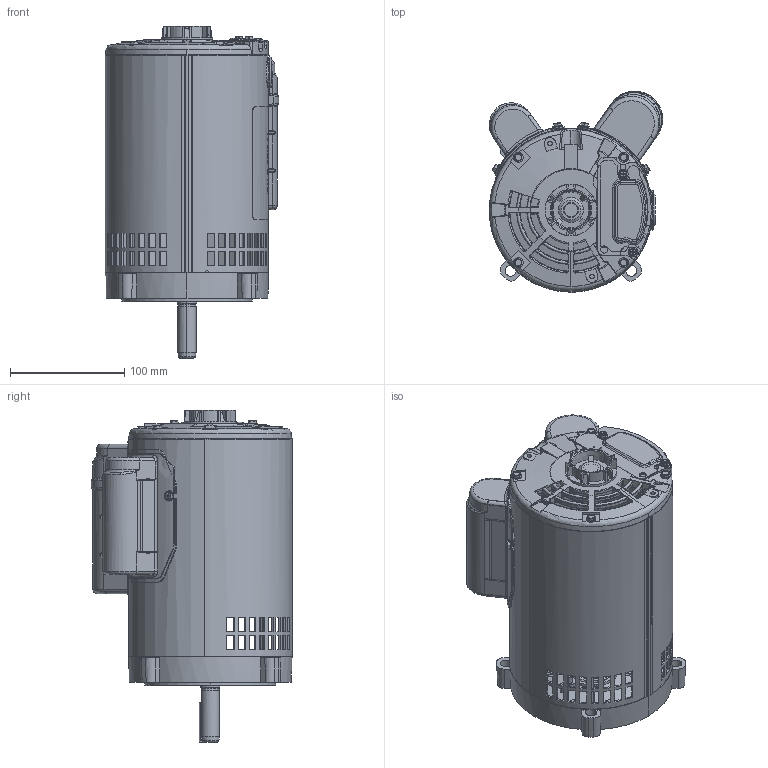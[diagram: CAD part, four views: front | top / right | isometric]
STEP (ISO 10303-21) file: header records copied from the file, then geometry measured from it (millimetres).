
FILE_DESCRIPTION (( 'STEP AP203' ), '1' );
FILE_NAME ('SS404112-750_RevD.STEP', '2019-09-12T09:05:47', ( '' ), ( '' ), 'SwSTEP 2.0', 'SolidWorks 2015', '' );
FILE_SCHEMA (( 'CONFIG_CONTROL_DESIGN' ));
Products named in the file (1): SS404112-750_RevD
Bounding box: 151.65 x 176.17 x 290.36 mm (x, y, z)
Volume: 470360.7 mm3; surface area: 460023 mm2
Topology: 27 solids, 27 shells, 3309 faces, 8587 edges, 5357 vertices
Faces by surface type: plane 1302, cylinder 699, bspline 566, cone 440, torus 290, sphere 12
Entity records: 129223 total; most frequent: CARTESIAN_POINT 53427, ORIENTED_EDGE 17066, DIRECTION 14468, EDGE_CURVE 8533, AXIS2_PLACEMENT_3D 5720, VERTEX_POINT 5349, EDGE_LOOP 3520, FACE_OUTER_BOUND 3309
